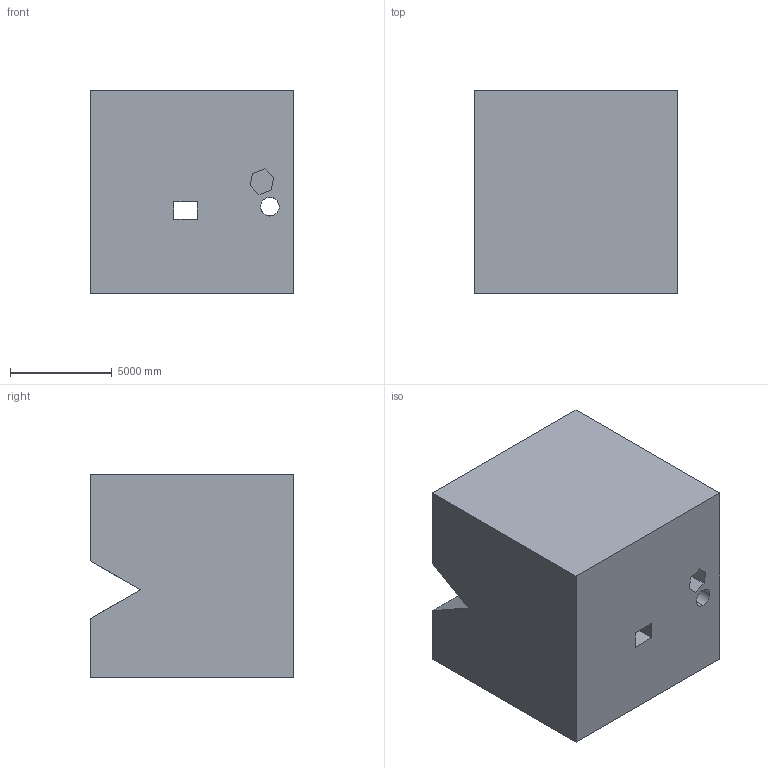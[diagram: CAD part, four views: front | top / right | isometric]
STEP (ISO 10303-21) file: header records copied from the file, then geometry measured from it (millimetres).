
FILE_DESCRIPTION (( 'STEP AP203' ), '1' );
FILE_NAME ('34.STEP', '2022-09-01T11:41:31', ( 'user' ), ( '' ), 'SwSTEP 2.0', 'SolidWorks 2021', '' );
FILE_SCHEMA (( 'CONFIG_CONTROL_DESIGN' ));
Length unit declared in the file: centimetre
Products named in the file (1): 34
Bounding box: 10000 x 10000 x 10000 mm (x, y, z)
Volume: 943036250060.8 mm3; surface area: 704401688.6 mm2
Topology: 1 solids, 1 shells, 22 faces, 63 edges, 42 vertices
Faces by surface type: plane 20, cylinder 2
Entity records: 794 total; most frequent: CARTESIAN_POINT 140, ORIENTED_EDGE 126, DIRECTION 107, EDGE_CURVE 63, VECTOR 57, LINE 57, VERTEX_POINT 42, EDGE_LOOP 25
